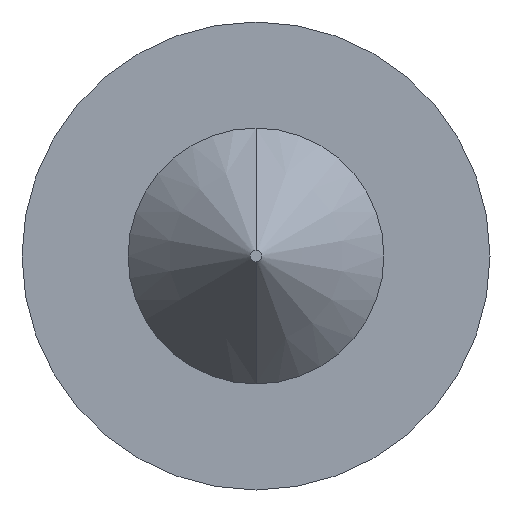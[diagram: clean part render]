
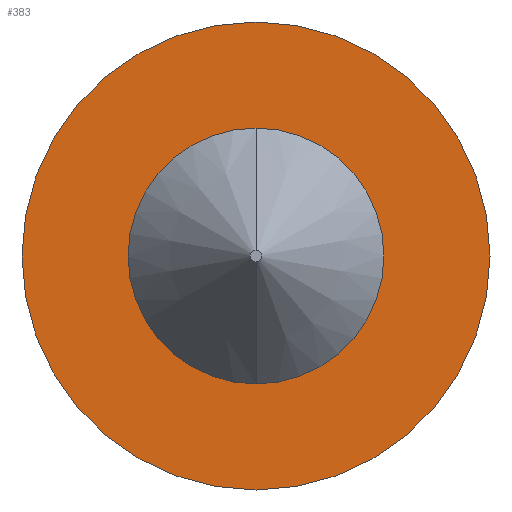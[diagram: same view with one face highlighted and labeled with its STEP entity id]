
A CAD part, front view. The second image highlights one B-rep face of the part: STEP entity #383.
In plain terms, the highlighted planar face has unit normal (0, -1, 0).
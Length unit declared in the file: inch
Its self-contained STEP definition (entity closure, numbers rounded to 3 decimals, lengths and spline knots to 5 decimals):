
#3 = EDGE_LOOP ( 'NONE', ( #393, #72 ) ) ;
#5 = AXIS2_PLACEMENT_3D ( 'NONE', #77, #83, #311 ) ;
#6 = DIRECTION ( 'NONE',  ( 0., -1., 0. ) ) ;
#9 = CARTESIAN_POINT ( 'NONE',  ( 0., -0.252, 0. ) ) ;
#33 = EDGE_CURVE ( 'NONE', #397, #421, #326, .T. ) ;
#40 = CARTESIAN_POINT ( 'NONE',  ( 0., -0.252, -0.108 ) ) ;
#41 = ORIENTED_EDGE ( 'NONE', *, *, #177, .F. ) ;
#72 = ORIENTED_EDGE ( 'NONE', *, *, #33, .T. ) ;
#77 = CARTESIAN_POINT ( 'NONE',  ( 0., -0.252, -0.108 ) ) ;
#81 = AXIS2_PLACEMENT_3D ( 'NONE', #9, #164, #298 ) ;
#83 = DIRECTION ( 'NONE',  ( 0., -1., 0. ) ) ;
#85 = CARTESIAN_POINT ( 'NONE',  ( 0., -0.252, 0.1975 ) ) ;
#88 = CIRCLE ( 'NONE', #81, 0.1975 ) ;
#104 = CARTESIAN_POINT ( 'NONE',  ( 0., -0.252, -0.1975 ) ) ;
#114 = DIRECTION ( 'NONE',  ( 0., -1., 0. ) ) ;
#137 = CIRCLE ( 'NONE', #351, 0.108 ) ;
#139 = PLANE ( 'NONE',  #5 ) ;
#161 = CARTESIAN_POINT ( 'NONE',  ( 0., -0.252, 0. ) ) ;
#164 = DIRECTION ( 'NONE',  ( 0., -1., 0. ) ) ;
#177 = EDGE_CURVE ( 'NONE', #409, #239, #260, .T. ) ;
#209 = EDGE_LOOP ( 'NONE', ( #376, #41 ) ) ;
#217 = DIRECTION ( 'NONE',  ( 0., 0., -1. ) ) ;
#239 = VERTEX_POINT ( 'NONE', #40 ) ;
#243 = AXIS2_PLACEMENT_3D ( 'NONE', #161, #6, #263 ) ;
#247 = DIRECTION ( 'NONE',  ( 0., 0., -1. ) ) ;
#248 = CARTESIAN_POINT ( 'NONE',  ( 0., -0.252, 0. ) ) ;
#260 = CIRCLE ( 'NONE', #370, 0.108 ) ;
#263 = DIRECTION ( 'NONE',  ( 0., 0., -1. ) ) ;
#273 = CARTESIAN_POINT ( 'NONE',  ( 0., -0.252, 0.108 ) ) ;
#279 = FACE_BOUND ( 'NONE', #209, .T. ) ;
#287 = EDGE_CURVE ( 'NONE', #421, #397, #88, .T. ) ;
#298 = DIRECTION ( 'NONE',  ( 0., 0., -1. ) ) ;
#311 = DIRECTION ( 'NONE',  ( 0., 0., -1. ) ) ;
#319 = DIRECTION ( 'NONE',  ( 0., -1., 0. ) ) ;
#326 = CIRCLE ( 'NONE', #243, 0.1975 ) ;
#344 = CARTESIAN_POINT ( 'NONE',  ( 0., -0.252, 0. ) ) ;
#351 = AXIS2_PLACEMENT_3D ( 'NONE', #344, #114, #247 ) ;
#370 = AXIS2_PLACEMENT_3D ( 'NONE', #248, #319, #217 ) ;
#376 = ORIENTED_EDGE ( 'NONE', *, *, #405, .F. ) ;
#382 = FACE_OUTER_BOUND ( 'NONE', #3, .T. ) ;
#383 = ADVANCED_FACE ( 'NONE', ( #382, #279 ), #139, .T. ) ;
#393 = ORIENTED_EDGE ( 'NONE', *, *, #287, .T. ) ;
#397 = VERTEX_POINT ( 'NONE', #85 ) ;
#405 = EDGE_CURVE ( 'NONE', #239, #409, #137, .T. ) ;
#409 = VERTEX_POINT ( 'NONE', #273 ) ;
#421 = VERTEX_POINT ( 'NONE', #104 ) ;
